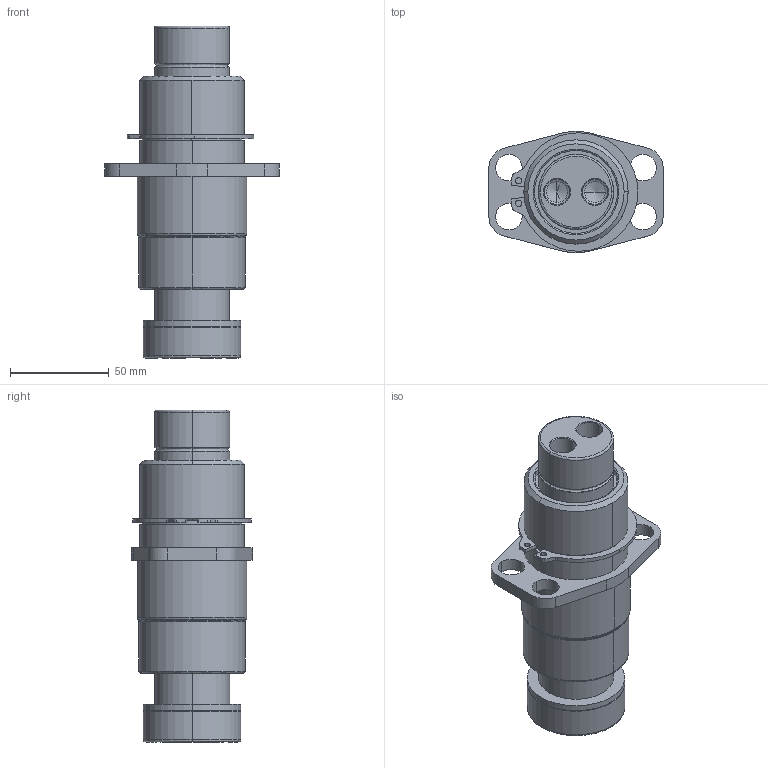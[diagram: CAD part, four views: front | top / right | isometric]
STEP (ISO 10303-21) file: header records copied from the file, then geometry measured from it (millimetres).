
FILE_DESCRIPTION (( 'STEP AP214' ), '1' );
FILE_NAME ('GK152-N4-2-TB-E-XXX.STEP', '2020-09-21T19:45:22', ( '' ), ( '' ), 'SwSTEP 2.0', 'SolidWorks 2017', '' );
FILE_SCHEMA (( 'AUTOMOTIVE_DESIGN' ));
Length unit declared in the file: inch
Products named in the file (7): GK152-N4-2-TB-E-XXX; GK152-DampeningWasher; GK1.50-N4-2-TB-Base; GK152-E-XXX-GuidePin; RetainingRing
Assembly tree (6 placements, depth 3):
  GK152-N4-2-TB-E-XXX
    GK1.50-N4-2-TB-Base
      GK1.50-N4-2-TB-Base
      RetainingRing
    GK152-E-XXX-GuidePin
      GK152-E-XXX-GuidePin
      GK152-DampeningWasher
Bounding box: 88.34 x 61.36 x 168.28 mm (x, y, z)
Volume: 325734.1 mm3; surface area: 71818.2 mm2
Topology: 4 solids, 4 shells, 133 faces, 313 edges, 192 vertices
Faces by surface type: cylinder 65, plane 26, cone 22, bspline 20
Entity records: 4824 total; most frequent: CARTESIAN_POINT 1285, DIRECTION 723, ORIENTED_EDGE 618, EDGE_CURVE 309, AXIS2_PLACEMENT_3D 300, VERTEX_POINT 192, CIRCLE 176, EDGE_LOOP 157
